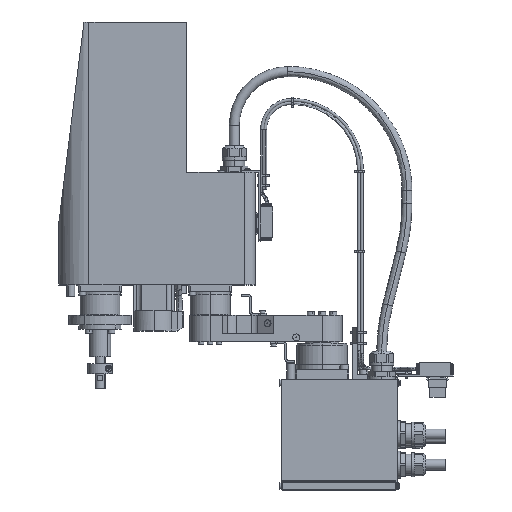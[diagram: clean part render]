
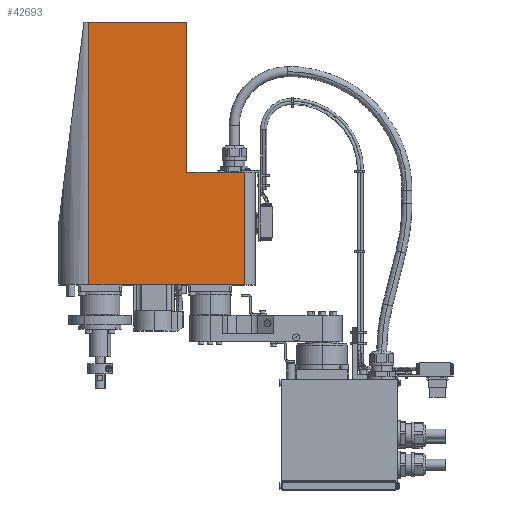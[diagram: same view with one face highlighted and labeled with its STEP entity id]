
A CAD part, top view. The second image highlights one B-rep face of the part: STEP entity #42693.
In plain terms, the highlighted planar face has unit normal (0, 0, 1) as drawn and (0, 1, 0) by its records, which use the part's own axes.
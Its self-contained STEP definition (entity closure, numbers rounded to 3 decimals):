
#41846 = EDGE_CURVE ( 'NONE', #41977, #41847, #71190, .T. ) ;
#41847 = VERTEX_POINT ( 'NONE', #71186 ) ;
#41977 = VERTEX_POINT ( 'NONE', #71399 ) ;
#42310 = VERTEX_POINT ( 'NONE', #71870 ) ;
#42315 = EDGE_LOOP ( 'NONE', ( #42697, #42700, #42710, #42714, #42717, #42722 ) ) ;
#42317 = EDGE_CURVE ( 'NONE', #41847, #42320, #71869, .T. ) ;
#42320 = VERTEX_POINT ( 'NONE', #71928 ) ;
#42691 = EDGE_CURVE ( 'NONE', #42771, #42310, #72415, .T. ) ;
#42693 = ADVANCED_FACE ( 'NONE', ( #72411 ), #72410, .F. ) ;
#42697 = ORIENTED_EDGE ( 'NONE', *, *, #41846, .F. ) ;
#42700 = ORIENTED_EDGE ( 'NONE', *, *, #42703, .T. ) ;
#42703 = EDGE_CURVE ( 'NONE', #41977, #42707, #72396, .T. ) ;
#42707 = VERTEX_POINT ( 'NONE', #72391 ) ;
#42710 = ORIENTED_EDGE ( 'NONE', *, *, #42712, .F. ) ;
#42712 = EDGE_CURVE ( 'NONE', #42771, #42707, #72456, .T. ) ;
#42714 = ORIENTED_EDGE ( 'NONE', *, *, #42691, .T. ) ;
#42717 = ORIENTED_EDGE ( 'NONE', *, *, #42720, .T. ) ;
#42720 = EDGE_CURVE ( 'NONE', #42310, #42320, #72452, .T. ) ;
#42722 = ORIENTED_EDGE ( 'NONE', *, *, #42317, .F. ) ;
#42771 = VERTEX_POINT ( 'NONE', #72464 ) ;
#71186 = CARTESIAN_POINT ( 'NONE',  ( 76.8, 30., 314.8 ) ) ;
#71187 = DIRECTION ( 'NONE',  ( -1., 0., 0. ) ) ;
#71188 = VECTOR ( 'NONE', #71187, 1000. ) ;
#71189 = CARTESIAN_POINT ( 'NONE',  ( 231., 30., 314.8 ) ) ;
#71190 = LINE ( 'NONE', #71189, #71188 ) ;
#71399 = CARTESIAN_POINT ( 'NONE',  ( 134., 30., 314.8 ) ) ;
#71867 = VECTOR ( 'NONE', #71929, 1000. ) ;
#71868 = CARTESIAN_POINT ( 'NONE',  ( 76.8, 30., 463.5 ) ) ;
#71869 = LINE ( 'NONE', #71868, #71867 ) ;
#71870 = CARTESIAN_POINT ( 'NONE',  ( 231., 30., 203. ) ) ;
#71928 = CARTESIAN_POINT ( 'NONE',  ( 76.8, 30., 203. ) ) ;
#71929 = DIRECTION ( 'NONE',  ( 0., 0., -1. ) ) ;
#72391 = CARTESIAN_POINT ( 'NONE',  ( 134., 30., 463.5 ) ) ;
#72393 = DIRECTION ( 'NONE',  ( 0., 0., 1. ) ) ;
#72394 = VECTOR ( 'NONE', #72393, 1000. ) ;
#72395 = CARTESIAN_POINT ( 'NONE',  ( 134., 30., 463.5 ) ) ;
#72396 = LINE ( 'NONE', #72395, #72394 ) ;
#72406 = DIRECTION ( 'NONE',  ( 1., 0., 0. ) ) ;
#72407 = DIRECTION ( 'NONE',  ( 0., -1., 0. ) ) ;
#72408 = CARTESIAN_POINT ( 'NONE',  ( 231., 30., 463.5 ) ) ;
#72409 = AXIS2_PLACEMENT_3D ( 'NONE', #72408, #72407, #72406 ) ;
#72410 = PLANE ( 'NONE',  #72409 ) ;
#72411 = FACE_OUTER_BOUND ( 'NONE', #42315, .T. ) ;
#72412 = DIRECTION ( 'NONE',  ( 0., 0., -1. ) ) ;
#72413 = VECTOR ( 'NONE', #72412, 1000. ) ;
#72414 = CARTESIAN_POINT ( 'NONE',  ( 231., 30., 463.5 ) ) ;
#72415 = LINE ( 'NONE', #72414, #72413 ) ;
#72449 = DIRECTION ( 'NONE',  ( -1., 0., 0. ) ) ;
#72450 = VECTOR ( 'NONE', #72449, 1000. ) ;
#72451 = CARTESIAN_POINT ( 'NONE',  ( 76.8, 30., 203. ) ) ;
#72452 = LINE ( 'NONE', #72451, #72450 ) ;
#72453 = DIRECTION ( 'NONE',  ( -1., 0., 0. ) ) ;
#72454 = VECTOR ( 'NONE', #72453, 1000. ) ;
#72455 = CARTESIAN_POINT ( 'NONE',  ( 231., 30., 463.5 ) ) ;
#72456 = LINE ( 'NONE', #72455, #72454 ) ;
#72464 = CARTESIAN_POINT ( 'NONE',  ( 231., 30., 463.5 ) ) ;
